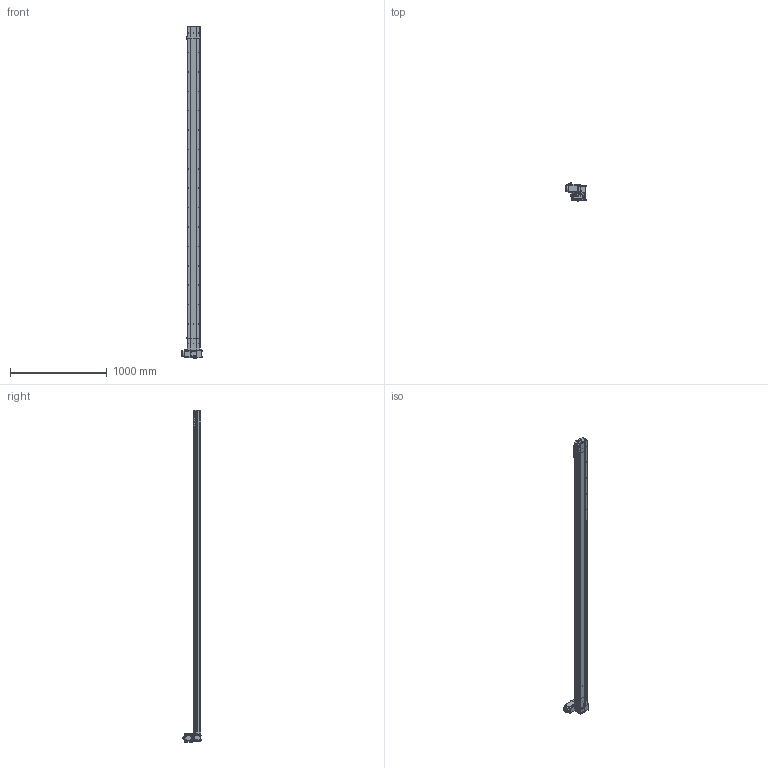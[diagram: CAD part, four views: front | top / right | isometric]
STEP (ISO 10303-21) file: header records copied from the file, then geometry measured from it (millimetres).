
FILE_DESCRIPTION (( 'STEP AP214' ), '1' );
FILE_NAME ('D14 TBH LT S3100.STEP', '2010-06-29T14:48:41', ( 'Conseil Régional Haute-Normandie' ), ( 'Conseil Régional Haute-Normandie' ), 'SwSTEP 2.0', 'SolidWorks 2010', '' );
FILE_SCHEMA (( 'AUTOMOTIVE_DESIGN' ));
Length unit declared in the file: millimetre
Products named in the file (39): D14 TB H LT_Default; couvercle D14 course L3100_Default; vis M5 L16_Default; plaque de  bout tail D14_Default; corpl tail D14_Default; Arbre+rail tail D14; tete d''axe haut D14; Tail D14B_Default; Couroie_Default; poulie tail_Default; chariot D14B_Default; vis M5 L8 90°_Default; couvercle D14_Default; vis M5 L12_Default; Conecteur2_Default; couvercle D14 head_Default; Plaque racord D14_Default; Conecteur_Default; Chariot D14; plaque de  bout head D14 LT_Default; corps 90BLDC100A-640; avant 90BLDC100A-640; Cache arbre_Default; Cache_Default; poulie head_Default; corp head D14_Default; Vis M5 L16-2_Default; vis M5 L5_Default; renvoi LH_Default; Moteur motionking 90BLDC100A-640; codeur 90BLDC100-640; Arbre+rail head D14; Cvis M5 L70_Default; couroie 2_Default; guide D14; Rail + couroie D14 Course 3100 ; corpl 3100_Default; D14 couroie L3100_Default; D14 TBH LT S3100
Assembly tree (68 placements, depth 4):
  D14 TBH LT S3100
    Tail D14B_Default
      vis M5 L16_Default  x2
      vis M5 L12_Default  x4
      Couroie_Default
      Arbre+rail tail D14
      poulie tail_Default
      tete d''axe haut D14
      corpl tail D14_Default
      plaque de  bout tail D14_Default
      couvercle D14_Default
      vis M5 L8 90°_Default  x2
    D14 TB H LT_Default
      vis M5 L5_Default  x2
      vis M5 L12_Default  x12
      Moteur motionking 90BLDC100A-640
        Conecteur2_Default
        codeur 90BLDC100-640
        corps 90BLDC100A-640
        Conecteur_Default
        avant 90BLDC100A-640
      Plaque racord D14_Default
      poulie head_Default
      couvercle D14 head_Default
      Cvis M5 L70_Default  x4
      Cache arbre_Default
      Vis M5 L16-2_Default  x4
      renvoi LH_Default
      corp head D14_Default
      Cache_Default  x2
      plaque de  bout head D14 LT_Default
      Arbre+rail head D14
      couroie 2_Default
    chariot D14B_Default
      vis M5 L12_Default  x4
      guide D14  x2
      Chariot D14
    D14 couroie L3100_Default
      couvercle D14 course L3100_Default
      Rail + couroie D14 Course 3100 
      corpl 3100_Default
Bounding box: 207.2 x 189.1 x 3425.75 mm (x, y, z)
Volume: 12465368.8 mm3; surface area: 4583334 mm2
Topology: 92 solids, 92 shells, 2773 faces, 6755 edges, 4362 vertices
Faces by surface type: plane 1625, cylinder 835, bspline 136, torus 89, cone 84, sphere 4
Entity records: 83384 total; most frequent: CARTESIAN_POINT 24229, ORIENTED_EDGE 10370, DIRECTION 10324, EDGE_CURVE 5185, AXIS2_PLACEMENT_3D 3471, VERTEX_POINT 3412, LINE 3382, VECTOR 3382
